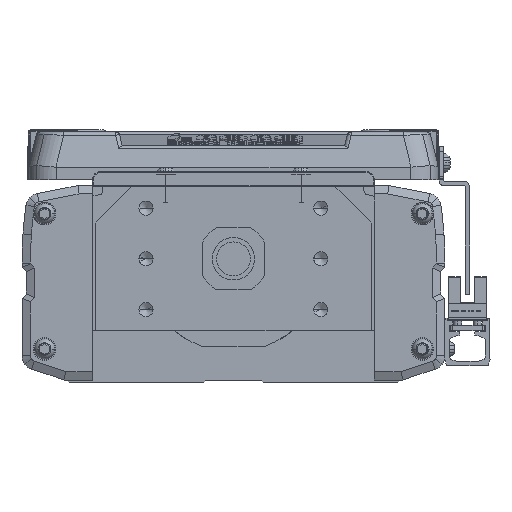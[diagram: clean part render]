
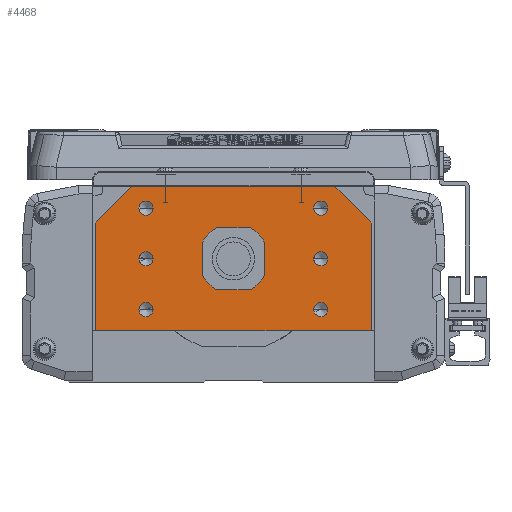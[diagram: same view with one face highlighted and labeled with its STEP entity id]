
A CAD part, left-side view. The second image highlights one B-rep face of the part: STEP entity #4468.
In plain terms, the highlighted planar face has unit normal (-1, 0, 0).
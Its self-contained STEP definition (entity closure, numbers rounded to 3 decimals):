
#4468=ADVANCED_FACE('',(#10553,#10554,#10555,#10556,#10557,#10558,#10559,#10560),#10561,.F.);
#10553=FACE_OUTER_BOUND('',#18804,.T.);
#10554=FACE_BOUND('',#18805,.T.);
#10555=FACE_BOUND('',#18806,.T.);
#10556=FACE_BOUND('',#18807,.T.);
#10557=FACE_BOUND('',#18808,.T.);
#10558=FACE_BOUND('',#18809,.T.);
#10559=FACE_BOUND('',#18810,.T.);
#10560=FACE_BOUND('',#18811,.T.);
#10561=PLANE('',#18812);
#18804=EDGE_LOOP('',(#32495,#32496,#32497,#32498,#32499,#32500,#32501,#32502));
#18805=EDGE_LOOP('',(#32503,#32504));
#18806=EDGE_LOOP('',(#32505,#32506));
#18807=EDGE_LOOP('',(#32507,#32508));
#18808=EDGE_LOOP('',(#32509,#32510));
#18809=EDGE_LOOP('',(#32511,#32512));
#18810=EDGE_LOOP('',(#32513,#32514));
#18811=EDGE_LOOP('',(#32515,#32516));
#18812=AXIS2_PLACEMENT_3D('',#32517,#32518,#32519);
#32495=ORIENTED_EDGE('',*,*,#52577,.F.);
#32496=ORIENTED_EDGE('',*,*,#52578,.F.);
#32497=ORIENTED_EDGE('',*,*,#52579,.F.);
#32498=ORIENTED_EDGE('',*,*,#51060,.F.);
#32499=ORIENTED_EDGE('',*,*,#52580,.F.);
#32500=ORIENTED_EDGE('',*,*,#49535,.F.);
#32501=ORIENTED_EDGE('',*,*,#49696,.F.);
#32502=ORIENTED_EDGE('',*,*,#52581,.F.);
#32503=ORIENTED_EDGE('',*,*,#52582,.T.);
#32504=ORIENTED_EDGE('',*,*,#52583,.T.);
#32505=ORIENTED_EDGE('',*,*,#52584,.T.);
#32506=ORIENTED_EDGE('',*,*,#52585,.T.);
#32507=ORIENTED_EDGE('',*,*,#52586,.T.);
#32508=ORIENTED_EDGE('',*,*,#52587,.T.);
#32509=ORIENTED_EDGE('',*,*,#52588,.T.);
#32510=ORIENTED_EDGE('',*,*,#52589,.T.);
#32511=ORIENTED_EDGE('',*,*,#52590,.T.);
#32512=ORIENTED_EDGE('',*,*,#52591,.T.);
#32513=ORIENTED_EDGE('',*,*,#50846,.T.);
#32514=ORIENTED_EDGE('',*,*,#52592,.T.);
#32515=ORIENTED_EDGE('',*,*,#50235,.F.);
#32516=ORIENTED_EDGE('',*,*,#52593,.F.);
#32517=CARTESIAN_POINT('',(0.,0.275,-2.548));
#32518=DIRECTION('',(1.0,0.,0.));
#32519=DIRECTION('',(0.,1.0,0.));
#49535=EDGE_CURVE('',#59280,#59283,#59284,.T.);
#49696=EDGE_CURVE('',#59560,#59280,#59561,.T.);
#50235=EDGE_CURVE('',#60505,#60500,#60507,.F.);
#50846=EDGE_CURVE('',#61517,#61521,#61523,.T.);
#51060=EDGE_CURVE('',#61869,#61871,#61872,.T.);
#52577=EDGE_CURVE('',#64311,#64312,#64313,.T.);
#52578=EDGE_CURVE('',#64314,#64311,#64315,.T.);
#52579=EDGE_CURVE('',#61871,#64314,#64316,.T.);
#52580=EDGE_CURVE('',#59283,#61869,#64317,.T.);
#52581=EDGE_CURVE('',#64312,#59560,#64318,.T.);
#52582=EDGE_CURVE('',#64319,#64320,#64321,.T.);
#52583=EDGE_CURVE('',#64320,#64319,#64322,.T.);
#52584=EDGE_CURVE('',#64323,#64324,#64325,.T.);
#52585=EDGE_CURVE('',#64324,#64323,#64326,.T.);
#52586=EDGE_CURVE('',#64327,#64328,#64329,.T.);
#52587=EDGE_CURVE('',#64328,#64327,#64330,.T.);
#52588=EDGE_CURVE('',#64331,#64332,#64333,.T.);
#52589=EDGE_CURVE('',#64332,#64331,#64334,.T.);
#52590=EDGE_CURVE('',#64335,#64336,#64337,.T.);
#52591=EDGE_CURVE('',#64336,#64335,#64338,.T.);
#52592=EDGE_CURVE('',#61521,#61517,#64339,.T.);
#52593=EDGE_CURVE('',#60500,#60505,#64340,.F.);
#59280=VERTEX_POINT('',#72997);
#59283=VERTEX_POINT('',#73001);
#59284=LINE('',#73002,#73003);
#59560=VERTEX_POINT('',#73368);
#59561=LINE('',#73369,#73370);
#60500=VERTEX_POINT('',#75220);
#60505=VERTEX_POINT('',#75226);
#60507=CIRCLE('',#75229,7.5);
#61517=VERTEX_POINT('',#76685);
#61521=VERTEX_POINT('',#76690);
#61523=CIRCLE('',#76693,2.5);
#61869=VERTEX_POINT('',#77190);
#61871=VERTEX_POINT('',#77193);
#61872=LINE('',#77194,#77195);
#64311=VERTEX_POINT('',#80509);
#64312=VERTEX_POINT('',#80510);
#64313=LINE('',#80511,#80512);
#64314=VERTEX_POINT('',#80513);
#64315=LINE('',#80514,#80515);
#64316=LINE('',#80516,#80517);
#64317=LINE('',#80518,#80519);
#64318=LINE('',#80520,#80521);
#64319=VERTEX_POINT('',#80522);
#64320=VERTEX_POINT('',#80523);
#64321=CIRCLE('',#80524,2.5);
#64322=CIRCLE('',#80525,2.5);
#64323=VERTEX_POINT('',#80526);
#64324=VERTEX_POINT('',#80527);
#64325=CIRCLE('',#80528,2.5);
#64326=CIRCLE('',#80529,2.5);
#64327=VERTEX_POINT('',#80530);
#64328=VERTEX_POINT('',#80531);
#64329=CIRCLE('',#80532,2.5);
#64330=CIRCLE('',#80533,2.5);
#64331=VERTEX_POINT('',#80534);
#64332=VERTEX_POINT('',#80535);
#64333=CIRCLE('',#80536,2.5);
#64334=CIRCLE('',#80537,2.5);
#64335=VERTEX_POINT('',#80538);
#64336=VERTEX_POINT('',#80539);
#64337=CIRCLE('',#80540,2.5);
#64338=CIRCLE('',#80541,2.5);
#64339=CIRCLE('',#80542,2.5);
#64340=CIRCLE('',#80543,7.5);
#72997=CARTESIAN_POINT('',(0.,-49.,12.7));
#73001=CARTESIAN_POINT('',(0.,-49.,-25.));
#73002=CARTESIAN_POINT('',(0.,-49.,-14.));
#73003=VECTOR('',#90669,10.0);
#73368=CARTESIAN_POINT('',(0.,-36.,25.7));
#73369=CARTESIAN_POINT('',(0.,-37.243,24.457));
#73370=VECTOR('',#90876,10.0);
#75220=CARTESIAN_POINT('',(0.,-7.5,0.));
#75226=CARTESIAN_POINT('',(0.,7.5,0.));
#75229=AXIS2_PLACEMENT_3D('',#91592,#91593,#91594);
#76685=CARTESIAN_POINT('',(0.,-33.5,0.));
#76690=CARTESIAN_POINT('',(0.,-28.5,0.));
#76693=AXIS2_PLACEMENT_3D('',#92398,#92399,#92400);
#77190=CARTESIAN_POINT('',(0.,-48.5,-25.5));
#77193=CARTESIAN_POINT('',(0.,48.5,-25.5));
#77194=CARTESIAN_POINT('',(0.,0.,-25.5));
#77195=VECTOR('',#92690,10.0);
#80509=CARTESIAN_POINT('',(0.,49.,12.7));
#80510=CARTESIAN_POINT('',(0.,36.,25.7));
#80511=CARTESIAN_POINT('',(0.,37.381,24.319));
#80512=VECTOR('',#94784,10.);
#80513=CARTESIAN_POINT('',(0.,49.,-25.));
#80514=CARTESIAN_POINT('',(0.,49.,-25.));
#80515=VECTOR('',#94785,10.0);
#80516=CARTESIAN_POINT('',(0.,48.5,-25.5));
#80517=VECTOR('',#94786,10.0);
#80518=CARTESIAN_POINT('',(0.,-49.,-25.));
#80519=VECTOR('',#94787,10.0);
#80520=CARTESIAN_POINT('',(0.,34.5,25.7));
#80521=VECTOR('',#94788,10.0);
#80522=CARTESIAN_POINT('',(0.,33.5,-18.));
#80523=CARTESIAN_POINT('',(0.,28.5,-18.));
#80524=AXIS2_PLACEMENT_3D('',#94789,#94790,#94791);
#80525=AXIS2_PLACEMENT_3D('',#94792,#94793,#94794);
#80526=CARTESIAN_POINT('',(0.,-33.5,-18.));
#80527=CARTESIAN_POINT('',(0.,-28.5,-18.));
#80528=AXIS2_PLACEMENT_3D('',#94795,#94796,#94797);
#80529=AXIS2_PLACEMENT_3D('',#94798,#94799,#94800);
#80530=CARTESIAN_POINT('',(0.,33.5,18.));
#80531=CARTESIAN_POINT('',(0.,28.5,18.));
#80532=AXIS2_PLACEMENT_3D('',#94801,#94802,#94803);
#80533=AXIS2_PLACEMENT_3D('',#94804,#94805,#94806);
#80534=CARTESIAN_POINT('',(0.,-33.5,18.));
#80535=CARTESIAN_POINT('',(0.,-28.5,18.));
#80536=AXIS2_PLACEMENT_3D('',#94807,#94808,#94809);
#80537=AXIS2_PLACEMENT_3D('',#94810,#94811,#94812);
#80538=CARTESIAN_POINT('',(0.,33.5,0.));
#80539=CARTESIAN_POINT('',(0.,28.5,0.));
#80540=AXIS2_PLACEMENT_3D('',#94813,#94814,#94815);
#80541=AXIS2_PLACEMENT_3D('',#94816,#94817,#94818);
#80542=AXIS2_PLACEMENT_3D('',#94819,#94820,#94821);
#80543=AXIS2_PLACEMENT_3D('',#94822,#94823,#94824);
#90669=DIRECTION('',(0.,0.,-1.0));
#90876=DIRECTION('',(0.,-0.707,-0.707));
#91592=CARTESIAN_POINT('',(0.,0.,0.));
#91593=DIRECTION('',(1.0,0.,0.));
#91594=DIRECTION('',(0.,-1.0,0.));
#92398=CARTESIAN_POINT('',(0.,-31.,0.));
#92399=DIRECTION('',(1.0,0.,0.));
#92400=DIRECTION('',(0.,-1.0,0.));
#92690=DIRECTION('',(0.,1.0,0.));
#94784=DIRECTION('',(0.,-0.707,0.707));
#94785=DIRECTION('',(0.,0.,1.0));
#94786=DIRECTION('',(0.,0.707,0.707));
#94787=DIRECTION('',(0.,0.707,-0.707));
#94788=DIRECTION('',(0.,-1.0,0.));
#94789=CARTESIAN_POINT('',(0.,31.,-18.));
#94790=DIRECTION('',(1.0,0.,0.));
#94791=DIRECTION('',(0.,1.0,0.));
#94792=CARTESIAN_POINT('',(0.,31.,-18.));
#94793=DIRECTION('',(1.0,0.,0.));
#94794=DIRECTION('',(0.,1.0,0.));
#94795=CARTESIAN_POINT('',(0.,-31.,-18.));
#94796=DIRECTION('',(1.0,0.,0.));
#94797=DIRECTION('',(0.,-1.0,0.));
#94798=CARTESIAN_POINT('',(0.,-31.,-18.));
#94799=DIRECTION('',(1.0,0.,0.));
#94800=DIRECTION('',(0.,-1.0,0.));
#94801=CARTESIAN_POINT('',(0.,31.,18.));
#94802=DIRECTION('',(1.0,0.,0.));
#94803=DIRECTION('',(0.,1.0,0.));
#94804=CARTESIAN_POINT('',(0.,31.,18.));
#94805=DIRECTION('',(1.0,0.,0.));
#94806=DIRECTION('',(0.,1.0,0.));
#94807=CARTESIAN_POINT('',(0.,-31.,18.));
#94808=DIRECTION('',(1.0,0.,0.));
#94809=DIRECTION('',(0.,-1.0,0.));
#94810=CARTESIAN_POINT('',(0.,-31.,18.));
#94811=DIRECTION('',(1.0,0.,0.));
#94812=DIRECTION('',(0.,-1.0,0.));
#94813=CARTESIAN_POINT('',(0.,31.,0.));
#94814=DIRECTION('',(1.0,0.,0.));
#94815=DIRECTION('',(0.,1.0,0.));
#94816=CARTESIAN_POINT('',(0.,31.,0.));
#94817=DIRECTION('',(1.0,0.,0.));
#94818=DIRECTION('',(0.,1.0,0.));
#94819=CARTESIAN_POINT('',(0.,-31.,0.));
#94820=DIRECTION('',(1.0,0.,0.));
#94821=DIRECTION('',(0.,-1.0,0.));
#94822=CARTESIAN_POINT('',(0.,0.,0.));
#94823=DIRECTION('',(1.0,0.,0.));
#94824=DIRECTION('',(0.,-1.0,0.));
